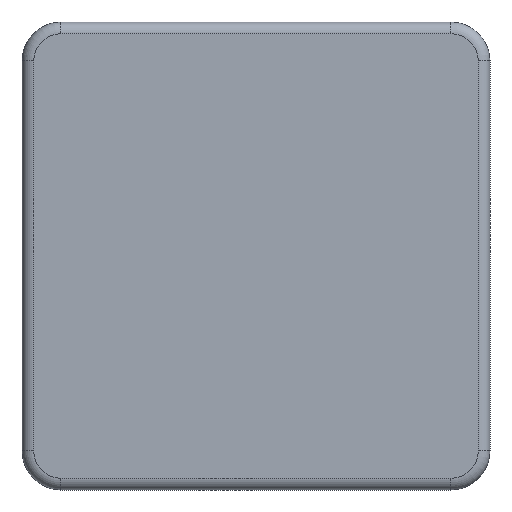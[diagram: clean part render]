
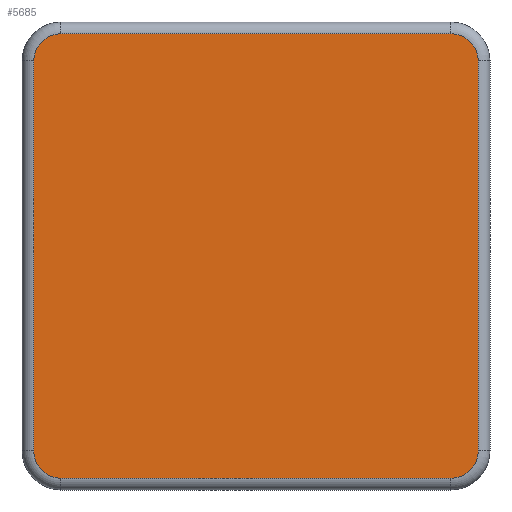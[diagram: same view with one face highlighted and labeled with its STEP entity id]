
A CAD part, front view. The second image highlights one B-rep face of the part: STEP entity #5685.
In plain terms, the highlighted planar face has unit normal (0, -1, 0).
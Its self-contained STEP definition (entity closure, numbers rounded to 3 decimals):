
#238=PLANE('',#6157);
#384=LINE('',#8816,#667);
#387=LINE('',#8831,#670);
#388=LINE('',#8840,#671);
#390=LINE('',#8852,#673);
#667=VECTOR('',#7030,10.);
#670=VECTOR('',#7047,10.);
#671=VECTOR('',#7060,10.);
#673=VECTOR('',#7074,10.);
#1123=FACE_OUTER_BOUND('',#1425,.T.);
#1425=EDGE_LOOP('',(#4362,#4363,#4364,#4365,#4366,#4367,#4368,#4369));
#2196=CIRCLE('',#6135,7.);
#2200=CIRCLE('',#6141,7.);
#2204=CIRCLE('',#6147,7.);
#2207=CIRCLE('',#6152,7.);
#2486=VERTEX_POINT('',#8813);
#2487=VERTEX_POINT('',#8815);
#2489=VERTEX_POINT('',#8821);
#2491=VERTEX_POINT('',#8827);
#2493=VERTEX_POINT('',#8833);
#2494=VERTEX_POINT('',#8838);
#2495=VERTEX_POINT('',#8842);
#2497=VERTEX_POINT('',#8848);
#3178=EDGE_CURVE('',#2486,#2487,#384,.T.);
#3183=EDGE_CURVE('',#2487,#2489,#2196,.T.);
#3186=EDGE_CURVE('',#2489,#2491,#387,.T.);
#3189=EDGE_CURVE('',#2491,#2493,#2200,.T.);
#3191=EDGE_CURVE('',#2493,#2494,#388,.T.);
#3194=EDGE_CURVE('',#2494,#2495,#2204,.T.);
#3197=EDGE_CURVE('',#2495,#2497,#390,.T.);
#3199=EDGE_CURVE('',#2497,#2486,#2207,.T.);
#4362=ORIENTED_EDGE('',*,*,#3178,.F.);
#4363=ORIENTED_EDGE('',*,*,#3199,.F.);
#4364=ORIENTED_EDGE('',*,*,#3197,.F.);
#4365=ORIENTED_EDGE('',*,*,#3194,.F.);
#4366=ORIENTED_EDGE('',*,*,#3191,.F.);
#4367=ORIENTED_EDGE('',*,*,#3189,.F.);
#4368=ORIENTED_EDGE('',*,*,#3186,.F.);
#4369=ORIENTED_EDGE('',*,*,#3183,.F.);
#5685=ADVANCED_FACE('',(#1123),#238,.F.);
#6135=AXIS2_PLACEMENT_3D('',#8825,#7040,#7041);
#6141=AXIS2_PLACEMENT_3D('',#8836,#7054,#7055);
#6147=AXIS2_PLACEMENT_3D('',#8846,#7067,#7068);
#6152=AXIS2_PLACEMENT_3D('',#8855,#7079,#7080);
#6157=AXIS2_PLACEMENT_3D('',#8864,#7093,#7094);
#7030=DIRECTION('',(-1.,0.,0.));
#7040=DIRECTION('center_axis',(0.,1.,0.));
#7041=DIRECTION('ref_axis',(-0.707,0.,-0.707));
#7047=DIRECTION('',(0.,0.,1.));
#7054=DIRECTION('center_axis',(0.,1.,0.));
#7055=DIRECTION('ref_axis',(-0.707,0.,0.707));
#7060=DIRECTION('',(1.,0.,0.));
#7067=DIRECTION('center_axis',(0.,1.,0.));
#7068=DIRECTION('ref_axis',(0.707,0.,0.707));
#7074=DIRECTION('',(0.,0.,-1.));
#7079=DIRECTION('center_axis',(0.,1.,0.));
#7080=DIRECTION('ref_axis',(0.707,0.,-0.707));
#7093=DIRECTION('center_axis',(0.,1.,0.));
#7094=DIRECTION('ref_axis',(1.,0.,0.));
#8813=CARTESIAN_POINT('',(50.,0.,-57.));
#8815=CARTESIAN_POINT('',(-50.,0.,-57.));
#8816=CARTESIAN_POINT('',(30.,0.,-57.));
#8821=CARTESIAN_POINT('',(-57.,0.,-50.));
#8825=CARTESIAN_POINT('Origin',(-50.,0.,-50.));
#8827=CARTESIAN_POINT('',(-57.,0.,50.));
#8831=CARTESIAN_POINT('',(-57.,0.,-30.));
#8833=CARTESIAN_POINT('',(-50.,0.,57.));
#8836=CARTESIAN_POINT('Origin',(-50.,0.,50.));
#8838=CARTESIAN_POINT('',(50.,0.,57.));
#8840=CARTESIAN_POINT('',(-30.,0.,57.));
#8842=CARTESIAN_POINT('',(57.,0.,50.));
#8846=CARTESIAN_POINT('Origin',(50.,0.,50.));
#8848=CARTESIAN_POINT('',(57.,0.,-50.));
#8852=CARTESIAN_POINT('',(57.,0.,30.));
#8855=CARTESIAN_POINT('Origin',(50.,0.,-50.));
#8864=CARTESIAN_POINT('Origin',(0.,0.,0.));
